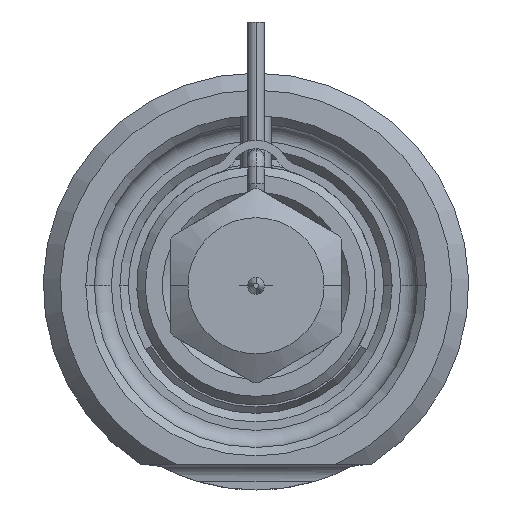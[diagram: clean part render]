
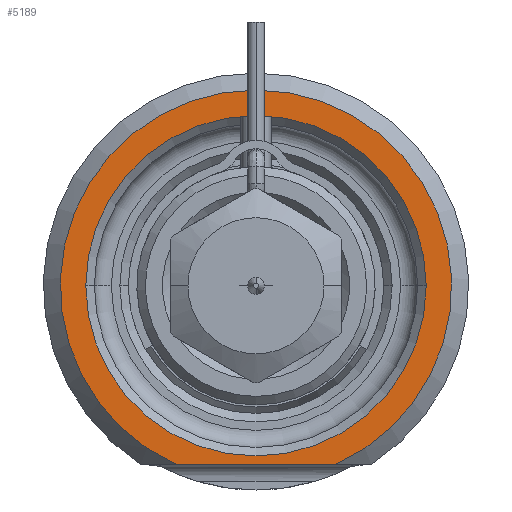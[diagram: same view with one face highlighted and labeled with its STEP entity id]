
A CAD part, front view. The second image highlights one B-rep face of the part: STEP entity #5189.
In plain terms, the highlighted planar face has unit normal (0, -1, 0).
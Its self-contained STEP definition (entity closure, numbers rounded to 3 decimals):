
#1335=CARTESIAN_POINT('',(0.,0.,0.));
#1336=DIRECTION('',(0.,-1.,0.));
#1337=DIRECTION('',(0.408,0.,-0.913));
#1338=AXIS2_PLACEMENT_3D('',#1335,#1336,#1337);
#1359=DIRECTION('',(1.,0.,0.));
#1360=VECTOR('',#1359,9.381);
#1361=CARTESIAN_POINT('',(-4.69,0.,-10.5));
#1362=LINE('',#1361,#1360);
#1363=CARTESIAN_POINT('',(0.,0.,0.));
#1364=DIRECTION('',(0.,1.,0.));
#1365=DIRECTION('',(-1.,0.,0.));
#1366=AXIS2_PLACEMENT_3D('',#1363,#1364,#1365);
#1368=CARTESIAN_POINT('',(0.,0.,0.));
#1369=DIRECTION('',(0.,1.,0.));
#1370=DIRECTION('',(1.,0.,0.));
#1371=AXIS2_PLACEMENT_3D('',#1368,#1369,#1370);
#3276=CARTESIAN_POINT('',(-10.,0.,0.));
#3277=CARTESIAN_POINT('',(10.,0.,0.));
#3278=VERTEX_POINT('',#3276);
#3279=VERTEX_POINT('',#3277);
#3320=CARTESIAN_POINT('',(-4.69,0.,-10.5));
#3321=CARTESIAN_POINT('',(4.69,0.,-10.5));
#3322=VERTEX_POINT('',#3320);
#3323=VERTEX_POINT('',#3321);
#5174=CARTESIAN_POINT('',(0.,0.,0.));
#5175=DIRECTION('',(0.,-1.,0.));
#5176=DIRECTION('',(1.,0.,0.));
#5177=AXIS2_PLACEMENT_3D('',#5174,#5175,#5176);
#5178=PLANE('',#5177);
#5179=ORIENTED_EDGE('',*,*,#5109,.F.);
#5180=ORIENTED_EDGE('',*,*,#5166,.F.);
#5181=EDGE_LOOP('',(#5179,#5180));
#5182=FACE_OUTER_BOUND('',#5181,.F.);
#5184=ORIENTED_EDGE('',*,*,#5183,.F.);
#5186=ORIENTED_EDGE('',*,*,#5185,.F.);
#5187=EDGE_LOOP('',(#5184,#5186));
#5188=FACE_BOUND('',#5187,.F.);
#5189=ADVANCED_FACE('',(#5182,#5188),#5178,.T.);
#1339=CIRCLE('',#1338,11.5);
#1367=CIRCLE('',#1366,10.);
#1372=CIRCLE('',#1371,10.);
#5109=EDGE_CURVE('',#3322,#3323,#1362,.T.);
#5166=EDGE_CURVE('',#3323,#3322,#1339,.T.);
#5183=EDGE_CURVE('',#3278,#3279,#1367,.T.);
#5185=EDGE_CURVE('',#3279,#3278,#1372,.T.);
